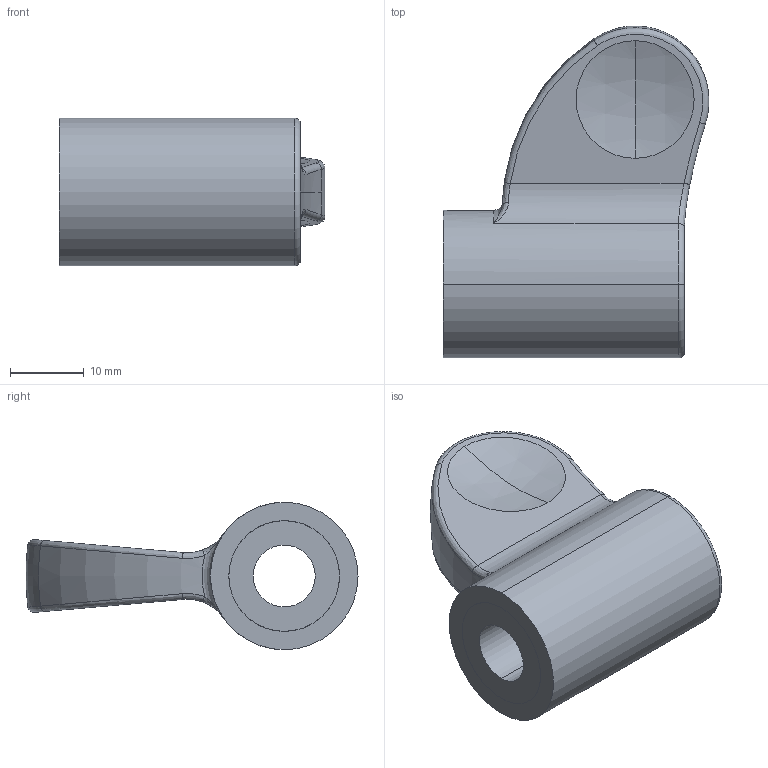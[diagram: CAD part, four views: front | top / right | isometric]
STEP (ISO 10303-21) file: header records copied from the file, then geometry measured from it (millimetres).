
FILE_DESCRIPTION (( 'STEP AP214' ), '1' );
FILE_NAME ('635-35-M10-D.step', '2020-06-24T11:09:54', ( '' ), ( '' ), 'SwSTEP 2.0', 'SolidWorks 2019', '' );
FILE_SCHEMA (( 'AUTOMOTIVE_DESIGN' ));
Length unit declared in the file: millimetre
Products named in the file (1): 635-35-M10-D
Bounding box: 35.99 x 45 x 20 mm (x, y, z)
Volume: 11188.9 mm3; surface area: 5039.9 mm2
Topology: 1 solids, 1 shells, 48 faces, 109 edges, 66 vertices
Faces by surface type: cylinder 15, torus 10, bspline 10, plane 7, sphere 6
Entity records: 2170 total; most frequent: CARTESIAN_POINT 1032, DIRECTION 231, ORIENTED_EDGE 214, EDGE_CURVE 107, AXIS2_PLACEMENT_3D 107, CIRCLE 68, VERTEX_POINT 66, EDGE_LOOP 55
